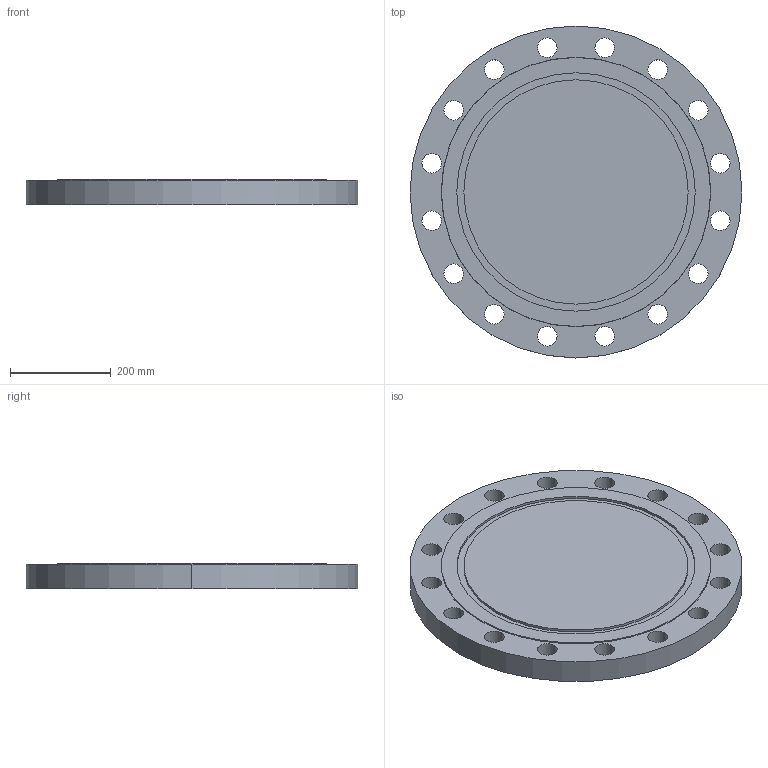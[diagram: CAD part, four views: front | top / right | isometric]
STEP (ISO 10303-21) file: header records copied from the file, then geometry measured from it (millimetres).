
FILE_DESCRIPTION (( 'STEP AP214' ), '1' );
FILE_NAME ('PN40 DN400 Type 05 - Type D Face.STEP', '2019-01-05T23:21:25', ( '' ), ( '' ), 'SwSTEP 2.0', 'SolidWorks 2019', '' );
FILE_SCHEMA (( 'AUTOMOTIVE_DESIGN' ));
Length unit declared in the file: millimetre
Products named in the file (1): PN40 DN400 Type 05 - Type D Face
Bounding box: 660 x 660 x 50 mm (x, y, z)
Volume: 15853322.4 mm3; surface area: 856908.4 mm2
Topology: 1 solids, 1 shells, 45 faces, 120 edges, 80 vertices
Faces by surface type: cylinder 38, plane 5, cone 2
Entity records: 1552 total; most frequent: DIRECTION 292, CARTESIAN_POINT 246, ORIENTED_EDGE 240, AXIS2_PLACEMENT_3D 126, EDGE_CURVE 120, CIRCLE 80, VERTEX_POINT 80, EDGE_LOOP 80
